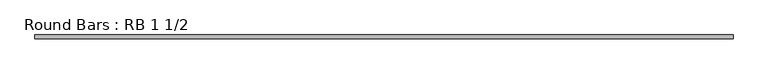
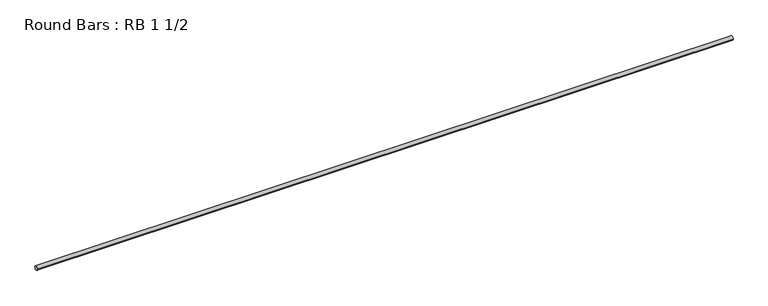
"""IFC4 building model written with IfcOpenShell, lengths in millimetres: member geometry, Round Bars : RB 1 1/2."""

from ifc_helpers import new_model, si_unit, point, frame, origin, origin_2d, place, context, project, spatial, circle_curve, trimmed, segment, composite_curve, outline, extrude, source, transform, mapped, element, save


def round_bars_rb_1_1_2_b3cfa4dc(model_context):
    return source(origin(), model_context, "Body", "SweptSolid", [
        extrude(outline(composite_curve([segment(trimmed(circle_curve(origin_2d(), 19.05), [point((19.05, 0.0))], [point((-19.05, 0.0))], False, "CARTESIAN"), True, "CONTINUOUS"), segment(trimmed(circle_curve(origin_2d(), 19.05), [point((-19.05, 0.0))], [point((19.05, 0.0))], False, "CARTESIAN"), True, "CONTINUOUS")], self_intersect=False)), frame((-3190.8369344, 0.0, 0.0), z_axis=(1.0, 0.0, 0.0), x_axis=(0.0, 1.0, 0.0)), (0.0, 0.0, 1.0), 6510.7686669),
    ])


if __name__ == "__main__":
    model = new_model("IFC4")
    model_context = context("Model", 3, world=origin())
    ifc_project = project(units=[si_unit("LENGTHUNIT", "METRE", prefix="MILLI")], contexts=[model_context])
    site = spatial("IfcSite", under=ifc_project)
    building = spatial("IfcBuilding", under=site)
    placement = place(None, origin())
    round_bars_rb_1_1_2_shape = round_bars_rb_1_1_2_b3cfa4dc(model_context)
    element("IfcMember", 1, ObjectType="Round Bars : RB 1 1/2", at=placement, inside=building, context=model_context, shape_type="MappedRepresentation", body=[
        mapped(round_bars_rb_1_1_2_shape, transform((0.0, 0.0, 0.0), x_axis=(1.0, 0.0, 0.0), y_axis=(0.0, 1.0, 0.0), z_axis=(0.0, 0.0, 1.0))),
    ])
    save(model, "model.ifc")
